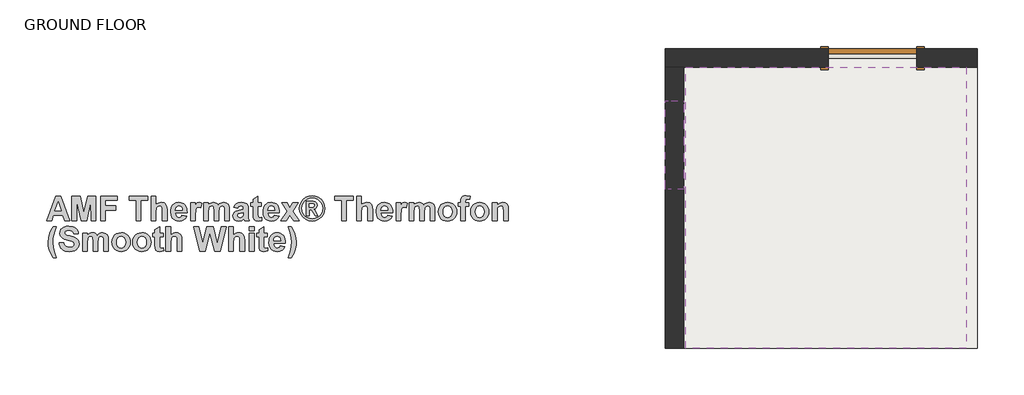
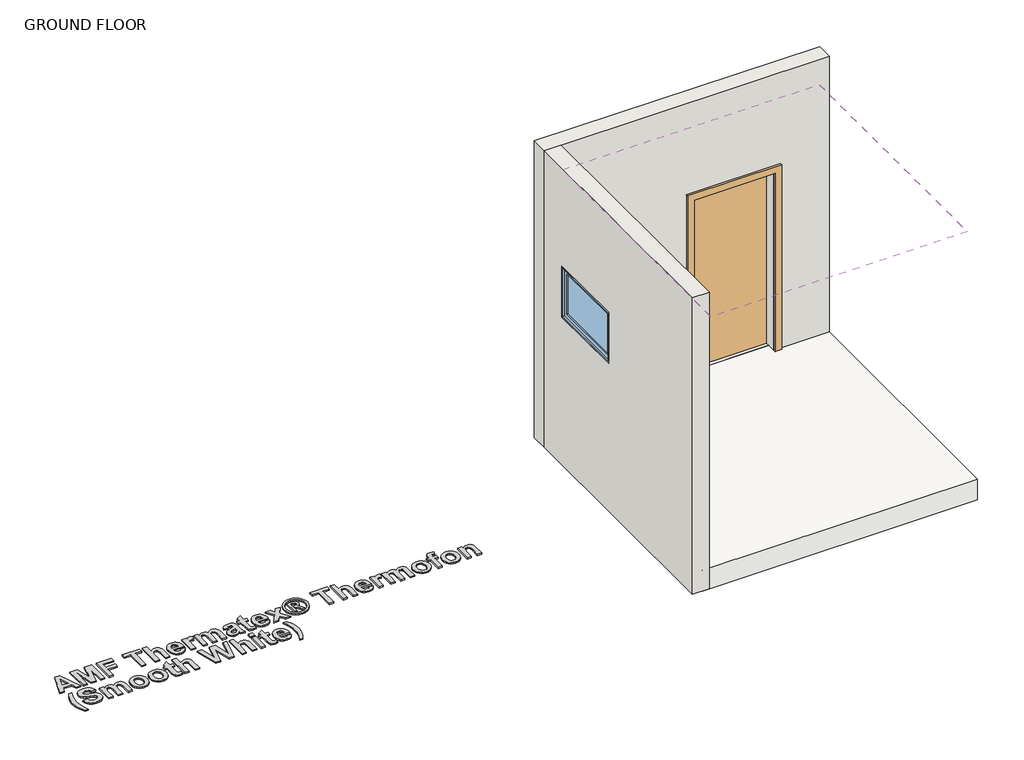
# One storey: 2 walls, 1 covering, 1 door, 1 proxy, 1 slab, 1 window.
"""IFC4 building model written with IfcOpenShell, lengths in millimetres."""

from ifc_helpers import new_model, si_unit, frame, origin, origin_with_axes, place, context, project, spatial, polyline, outline, extrude, faceted_brep, transform, mapped, element, save
from components import m_single_flush_0915_x_2134mm_f5238887, m_fixed_0915_x_0610mm_e83bb20a

model = new_model("IFC4")

# Units and contexts
model_context = context("Model", 3, world=origin())
ifc_project = project(units=[si_unit("LENGTHUNIT", "METRE", prefix="MILLI")], contexts=[model_context])

# Site, building, storey
site = spatial("IfcSite", under=ifc_project)
building = spatial("IfcBuilding", under=site)
storey = spatial("IfcBuildingStorey", under=building, Name="GROUND FLOOR", Elevation=0.0)

# Proxy
placement = place(None, origin())
element("IfcBuildingElementProxy", 1, Name="600mm Arial", ObjectType="600mm Arial", at=placement, inside=storey, context=model_context, shape_type="SweptSolid", body=[
    extrude(outline(polyline([(-7411.3659202, -20337.2370141), (-7462.4168463, -20337.2370141), (-7482.4070478, -20280.5559363), (-7578.752228, -20280.5559363), (-7598.489389, -20337.2370141), (-7650.2361766, -20337.2370141), (-7557.1172631, -20082.1721641), (-7505.3704756, -20082.1721641), (-7411.3659202, -20337.2370141)]), holes=[polyline([(-7497.9690402, -20236.0208038), (-7530.8010484, -20142.9018903), (-7563.1902357, -20236.0208038), (-7497.9690402, -20236.0208038)])]), origin_with_axes(), (0.0, 0.0, 1.0), 15.0),
    extrude(outline(polyline([(-7387.0740298, -20337.2370141), (-7387.0740298, -20082.1721641), (-7303.8236968, -20082.1721641), (-7263.5902532, -20256.1375256), (-7223.3568096, -20082.1721641), (-7140.1064766, -20082.1721641), (-7140.1064766, -20337.2370141), (-7188.6902575, -20337.2370141), (-7190.7145817, -20136.4493569), (-7235.123194, -20337.2370141), (-7291.9940522, -20337.2370141), (-7336.4659246, -20136.4493569), (-7338.4902488, -20337.2370141), (-7387.0740298, -20337.2370141)])), origin_with_axes(), (0.0, 0.0, 1.0), 15.0),
    extrude(outline(polyline([(-7091.5226956, -20337.2370141), (-7091.5226956, -20082.1721641), (-6917.4308139, -20082.1721641), (-6917.4308139, -20126.7072966), (-7042.9389147, -20126.7072966), (-7042.9389147, -20183.3883744), (-6933.6254076, -20183.3883744), (-6933.6254076, -20227.9235069), (-7042.9389147, -20227.9235069), (-7042.9389147, -20337.2370141), (-7091.5226956, -20337.2370141)])), origin_with_axes(), (0.0, 0.0, 1.0), 15.0),
    extrude(outline(polyline([(-6723.0956901, -20337.2370141), (-6723.0956901, -20126.7072966), (-6795.9713615, -20126.7072966), (-6795.9713615, -20082.1721641), (-6601.6362377, -20082.1721641), (-6601.6362377, -20126.7072966), (-6674.5119092, -20126.7072966), (-6674.5119092, -20337.2370141), (-6723.0956901, -20337.2370141)])), origin_with_axes(), (0.0, 0.0, 1.0), 15.0),
    extrude(outline(polyline([(-6520.6632695, -20082.1721641), (-6520.6632695, -20174.531956), (-6508.4580179, -20162.4650859), (-6495.1219914, -20153.845893), (-6480.6551901, -20148.6743773), (-6465.0576139, -20146.9505387), (-6449.2425811, -20148.5241345), (-6435.0723116, -20153.2449218), (-6423.3691873, -20160.4249467), (-6414.9555898, -20169.3762553), (-6405.7196106, -20191.1061104), (-6403.2524655, -20228.0500272), (-6403.2524655, -20337.2370141), (-6451.8362465, -20337.2370141), (-6451.8362465, -20238.1716482), (-6454.5564321, -20200.6900203), (-6464.1719721, -20188.0696241), (-6481.3787278, -20183.3883744), (-6492.6390312, -20184.8908025), (-6502.634132, -20189.3980869), (-6510.7393364, -20196.9260425), (-6516.3299505, -20207.4904845), (-6520.6632695, -20243.2957189), (-6520.6632695, -20337.2370141), (-6569.2470504, -20337.2370141), (-6569.2470504, -20082.1721641), (-6520.6632695, -20082.1721641)])), origin_with_axes(), (0.0, 0.0, 1.0), 15.0),
    extrude(outline(polyline([(-6249.4038258, -20280.5559363), (-6200.8200449, -20288.6532331), (-6212.6496895, -20311.3240827), (-6229.7931851, -20327.8428846), (-6252.0765664, -20337.924968), (-6279.325868, -20341.2856625), (-6301.3285325, -20339.3048296), (-6320.2709881, -20333.362331), (-6336.1532348, -20323.4581667), (-6348.9752727, -20309.5923366), (-6362.3547905, -20280.888052), (-6366.8146298, -20245.5098235), (-6365.3359242, -20223.6692631), (-6360.8998075, -20204.3274779), (-6353.5062796, -20187.4844679), (-6343.1553406, -20173.1402331), (-6330.5428519, -20161.6822418), (-6316.364675, -20153.4979623), (-6300.6208098, -20148.5873946), (-6283.3112563, -20146.9505387), (-6264.0762226, -20148.6308859), (-6246.9841258, -20153.6719277), (-6232.034966, -20162.0736639), (-6219.2287431, -20173.8360945), (-6209.0240932, -20189.069925), (-6201.8796521, -20207.8858603), (-6197.7954199, -20230.2839006), (-6196.7713965, -20256.2640458), (-6318.2308488, -20256.2640458), (-6315.1152874, -20276.7286983), (-6306.7807651, -20292.0692802), (-6294.4924845, -20301.6531901), (-6279.5156484, -20304.8478268), (-6269.3149522, -20303.4086588), (-6260.8539096, -20299.0911548), (-6254.1957808, -20291.5790142), (-6249.4038258, -20280.5559363)]), holes=[polyline([(-6245.3551774, -20227.9235069), (-6248.3125886, -20208.7161495), (-6256.1726599, -20194.743568), (-6267.5911136, -20186.2271728), (-6281.223672, -20183.3883744), (-6295.6153519, -20186.3774156), (-6307.2868461, -20195.3445392), (-6314.941322, -20209.4989937), (-6317.4084671, -20227.9235069), (-6245.3551774, -20227.9235069)])]), origin_with_axes(), (0.0, 0.0, 1.0), 15.0),
    extrude(outline(polyline([(-6111.7497798, -20337.2370141), (-6160.3335608, -20337.2370141), (-6160.3335608, -20150.9991871), (-6111.7497798, -20150.9991871), (-6111.7497798, -20176.935841), (-6092.3289195, -20152.7388407), (-6072.7182787, -20146.9505387), (-6057.5516622, -20149.512574), (-6042.9227568, -20157.19868), (-6057.0930262, -20203.4418361), (-6068.7961506, -20197.5111987), (-6079.613633, -20195.5343196), (-6096.7254986, -20201.0695811), (-6102.9724366, -20208.8268548), (-6107.7327615, -20221.0281526), (-6111.7497798, -20281.5048383), (-6111.7497798, -20337.2370141)])), origin_with_axes(), (0.0, 0.0, 1.0), 15.0),
    extrude(outline(polyline([(-6026.7281631, -20150.9991871), (-5978.1443822, -20150.9991871), (-5978.1443822, -20175.9236789), (-5966.1842636, -20163.24793), (-5953.1408152, -20154.1938237), (-5939.0140371, -20148.7613599), (-5923.8039293, -20146.9505387), (-5908.1549543, -20148.7297299), (-5894.7358989, -20154.0673035), (-5883.5309481, -20163.0107046), (-5874.5242869, -20175.6073782), (-5862.0857635, -20163.0107046), (-5848.6825232, -20154.0673035), (-5834.3303809, -20148.7297299), (-5819.0451516, -20146.9505387), (-5800.5890083, -20149.0302155), (-5785.2009813, -20155.269246), (-5773.0866661, -20165.5411098), (-5764.4516582, -20179.7192868), (-5760.7509405, -20195.2970941), (-5759.5173679, -20218.2447068), (-5759.5173679, -20337.2370141), (-5808.1011489, -20337.2370141), (-5808.1011489, -20230.0110913), (-5809.3347214, -20207.0634786), (-5813.0354391, -20194.0160765), (-5821.4174065, -20186.0452999), (-5833.4052014, -20183.3883744), (-5843.1077241, -20184.9777852), (-5852.2250906, -20189.7460176), (-5859.8163063, -20197.5823664), (-5864.940377, -20208.3761263), (-5868.8308751, -20247.1545869), (-5868.8308751, -20337.2370141), (-5917.414656, -20337.2370141), (-5917.414656, -20234.4393005), (-5919.9450613, -20199.1085171), (-5927.7576875, -20187.2788725), (-5942.1493674, -20183.3883744), (-5952.539844, -20184.9303401), (-5961.8232683, -20189.5562372), (-5969.3195939, -20197.1000079), (-5974.3487743, -20207.3955943), (-5978.1443822, -20246.0791647), (-5978.1443822, -20337.2370141), (-6026.7281631, -20337.2370141), (-6026.7281631, -20150.9991871)])), origin_with_axes(), (0.0, 0.0, 1.0), 15.0),
    extrude(outline(polyline([(-5670.4471028, -20207.6802649), (-5714.9822354, -20199.582968), (-5705.3271578, -20176.2399795), (-5690.5321946, -20159.8556055), (-5668.9683973, -20150.1768054), (-5639.0068175, -20146.9505387), (-5611.9156662, -20148.9036952), (-5592.7636614, -20154.7631649), (-5579.8269645, -20163.6195833), (-5571.381737, -20174.5635861), (-5566.7321173, -20191.5726539), (-5565.1822441, -20218.6242676), (-5565.1822441, -20276.064467), (-5562.6202088, -20312.2492622), (-5553.0362989, -20337.2370141), (-5601.6200798, -20337.2370141), (-5606.1748093, -20321.801542), (-5607.8828328, -20315.6653093), (-5633.8827469, -20334.8647591), (-5648.1953516, -20339.6804367), (-5663.4252283, -20341.2856625), (-5688.1994772, -20337.3872569), (-5707.106349, -20325.6920401), (-5719.0862364, -20308.0503709), (-5723.0795322, -20286.3126083), (-5721.300341, -20271.4148473), (-5715.9627674, -20258.2251099), (-5707.4147422, -20247.3285523), (-5696.0041959, -20239.3103306), (-5658.9970191, -20227.8602468), (-5613.7660251, -20215.7775617), (-5613.7660251, -20210.6534911), (-5615.2763607, -20198.0330948), (-5619.8073676, -20189.6511274), (-5628.5135432, -20184.9540627), (-5642.5493849, -20183.3883744), (-5652.6235608, -20184.7326522), (-5660.1989616, -20188.7654856), (-5670.4471028, -20207.6802649)]), holes=[polyline([(-5613.7660251, -20252.2153974), (-5641.157662, -20258.9526014), (-5665.702593, -20266.6387074), (-5672.2974617, -20273.5498767), (-5674.4957513, -20282.1374396), (-5672.7323751, -20290.748725), (-5667.4422466, -20298.1106228), (-5659.4319325, -20303.1635258), (-5649.5079993, -20304.8478268), (-5637.5992796, -20302.8867627), (-5626.2915311, -20297.0035705), (-5615.5373087, -20282.4537402), (-5613.7660251, -20261.0085557), (-5613.7660251, -20252.2153974)])]), origin_with_axes(), (0.0, 0.0, 1.0), 15.0),
    extrude(outline(polyline([(-5427.5281981, -20150.9991871), (-5427.5281981, -20187.4370228), (-5463.9660338, -20187.4370228), (-5463.9660338, -20267.3345688), (-5462.8589815, -20295.5802175), (-5457.8298011, -20302.2225313), (-5448.2775212, -20304.8478268), (-5425.5038739, -20300.166577), (-5423.4795497, -20334.7066088), (-5442.2203636, -20339.6408991), (-5463.2701724, -20341.2856625), (-5487.8151034, -20336.730933), (-5503.8515467, -20324.9645486), (-5510.9683115, -20305.417168), (-5512.5498148, -20270.0547545), (-5512.5498148, -20187.4370228), (-5536.8417052, -20187.4370228), (-5536.8417052, -20150.9991871), (-5512.5498148, -20150.9991871), (-5512.5498148, -20114.5613514), (-5463.9660338, -20086.2208125), (-5463.9660338, -20150.9991871), (-5427.5281981, -20150.9991871)])), origin_with_axes(), (0.0, 0.0, 1.0), 15.0),
    extrude(outline(polyline([(-5293.9228005, -20280.5559363), (-5245.3390195, -20288.6532331), (-5257.1686641, -20311.3240827), (-5274.3121597, -20327.8428846), (-5296.595541, -20337.924968), (-5323.8448427, -20341.2856625), (-5345.8475071, -20339.3048296), (-5364.7899627, -20333.362331), (-5380.6722095, -20323.4581667), (-5393.4942474, -20309.5923366), (-5406.8737652, -20280.888052), (-5411.3336044, -20245.5098235), (-5409.8548989, -20223.6692631), (-5405.4187822, -20204.3274779), (-5398.0252543, -20187.4844679), (-5387.6743153, -20173.1402331), (-5375.0618266, -20161.6822418), (-5360.8836496, -20153.4979623), (-5345.1397844, -20148.5873946), (-5327.8302309, -20146.9505387), (-5308.5951972, -20148.6308859), (-5291.5031005, -20153.6719277), (-5276.5539406, -20162.0736639), (-5263.7477178, -20173.8360945), (-5253.5430678, -20189.069925), (-5246.3986267, -20207.8858603), (-5242.3143945, -20230.2839006), (-5241.2903711, -20256.2640458), (-5362.7498235, -20256.2640458), (-5359.634262, -20276.7286983), (-5351.2997397, -20292.0692802), (-5339.0114592, -20301.6531901), (-5324.034623, -20304.8478268), (-5313.8339269, -20303.4086588), (-5305.3728843, -20299.0911548), (-5298.7147554, -20291.5790142), (-5293.9228005, -20280.5559363)]), holes=[polyline([(-5289.8741521, -20227.9235069), (-5292.8315632, -20208.7161495), (-5300.6916345, -20194.743568), (-5312.1100883, -20186.2271728), (-5325.7426466, -20183.3883744), (-5340.1343265, -20186.3774156), (-5351.8058208, -20195.3445392), (-5359.4602967, -20209.4989937), (-5361.9274418, -20227.9235069), (-5289.8741521, -20227.9235069)])]), origin_with_axes(), (0.0, 0.0, 1.0), 15.0),
    extrude(outline(polyline([(-5227.1201017, -20337.2370141), (-5161.329565, -20241.3346548), (-5219.0228048, -20150.9991871), (-5161.2663048, -20150.9991871), (-5133.1788065, -20202.1766334), (-5102.6874231, -20150.9991871), (-5044.9309231, -20150.9991871), (-5104.3321865, -20239.1838103), (-5036.8336263, -20337.2370141), (-5094.5901263, -20337.2370141), (-5133.1788065, -20279.5437742), (-5169.3636017, -20337.2370141), (-5227.1201017, -20337.2370141)])), origin_with_axes(), (0.0, 0.0, 1.0), 15.0),
    extrude(outline(polyline([(-4903.2282287, -20078.1235157), (-4870.0720123, -20082.354037), (-4838.2917037, -20095.0456008), (-4810.5284136, -20115.6367736), (-4789.4232522, -20143.5661217), (-4776.0911795, -20175.8999563), (-4771.6471553, -20209.7045891), (-4776.0041968, -20243.2640888), (-4789.0753215, -20275.2420853), (-4809.9432573, -20302.9895604), (-4837.6907325, -20323.8574963), (-4869.6687289, -20336.9286209), (-4903.2282287, -20341.2856625), (-4936.7877284, -20336.9286209), (-4968.7657248, -20323.8574963), (-4996.5132, -20302.9895604), (-5017.3811359, -20275.2420853), (-5030.4522605, -20243.2640888), (-5034.8093021, -20209.7045891), (-5030.3652778, -20175.8999563), (-5017.0332051, -20143.5661217), (-4995.9280438, -20115.6367736), (-4968.1647536, -20095.0456008), (-4936.3844451, -20082.354037), (-4903.2282287, -20078.1235157)]), holes=[polyline([(-4903.2914888, -20102.4154061), (-4930.2956574, -20105.8551758), (-4956.1453286, -20116.1744847), (-4978.7371031, -20132.9305121), (-4995.9675814, -20155.6804368), (-5006.879954, -20182.0440966), (-5010.5174116, -20209.6413289), (-5006.9669367, -20237.0092433), (-4996.3155121, -20263.06451), (-4979.2985367, -20285.6800069), (-4956.6514097, -20302.7286124), (-4930.580328, -20313.4274821), (-4903.2914888, -20316.993772), (-4875.931482, -20313.4274821), (-4849.8999379, -20302.7286124), (-4827.3002559, -20285.6800069), (-4810.2358354, -20263.06451), (-4799.5132432, -20237.0092433), (-4795.9390457, -20209.6413289), (-4799.5765033, -20182.0440966), (-4810.488876, -20155.6804368), (-4827.7430768, -20132.9305121), (-4850.4060189, -20116.1744847), (-4876.3110427, -20105.8551758), (-4903.2914888, -20102.4154061)])]), origin_with_axes(), (0.0, 0.0, 1.0), 15.0),
    extrude(outline(polyline([(-4961.9336307, -20284.6045847), (-4961.9336307, -20134.8045934), (-4934.5419937, -20134.8045934), (-4891.4618442, -20135.1841542), (-4870.3013303, -20141.1622367), (-4857.680934, -20155.5539166), (-4852.6201235, -20176.9991011), (-4854.9686559, -20192.0233823), (-4862.014253, -20204.7070387), (-4873.314094, -20214.0379081), (-4888.4253579, -20219.0038284), (-4878.6516676, -20224.6339801), (-4869.194278, -20236.147324), (-4858.8828765, -20254.3662419), (-4844.5228267, -20284.6045847), (-4872.8633656, -20284.6045847), (-4886.8438546, -20260.6289949), (-4908.2574091, -20230.1376115), (-4916.4733187, -20225.4405468), (-4926.6344773, -20223.8748585), (-4933.5930918, -20223.8748585), (-4933.5930918, -20284.6045847), (-4961.9336307, -20284.6045847)]), holes=[polyline([(-4933.5930918, -20199.582968), (-4922.5225688, -20199.582968), (-4893.2331279, -20197.5902739), (-4884.2501892, -20190.5683993), (-4880.9606624, -20179.1499456), (-4884.1869291, -20168.1110527), (-4893.3596482, -20161.1840683), (-4922.5225688, -20159.0964839), (-4933.5930918, -20159.0964839), (-4933.5930918, -20199.582968)])]), origin_with_axes(), (0.0, 0.0, 1.0), 15.0),
    extrude(outline(polyline([(-4597.5552735, -20337.2370141), (-4597.5552735, -20126.7072966), (-4670.430945, -20126.7072966), (-4670.430945, -20082.1721641), (-4476.0958211, -20082.1721641), (-4476.0958211, -20126.7072966), (-4548.9714926, -20126.7072966), (-4548.9714926, -20337.2370141), (-4597.5552735, -20337.2370141)])), origin_with_axes(), (0.0, 0.0, 1.0), 15.0),
    extrude(outline(polyline([(-4395.1228529, -20082.1721641), (-4395.1228529, -20174.531956), (-4382.9176013, -20162.4650859), (-4369.5815748, -20153.845893), (-4355.1147735, -20148.6743773), (-4339.5171974, -20146.9505387), (-4323.7021645, -20148.5241345), (-4309.5318951, -20153.2449218), (-4297.8287707, -20160.4249467), (-4289.4151733, -20169.3762553), (-4280.1791941, -20191.1061104), (-4277.7120489, -20228.0500272), (-4277.7120489, -20337.2370141), (-4326.2958299, -20337.2370141), (-4326.2958299, -20238.1716482), (-4329.0160155, -20200.6900203), (-4338.6315555, -20188.0696241), (-4355.8383113, -20183.3883744), (-4367.0986147, -20184.8908025), (-4377.0937154, -20189.3980869), (-4385.1989198, -20196.9260425), (-4390.7895339, -20207.4904845), (-4395.1228529, -20243.2957189), (-4395.1228529, -20337.2370141), (-4443.7066338, -20337.2370141), (-4443.7066338, -20082.1721641), (-4395.1228529, -20082.1721641)])), origin_with_axes(), (0.0, 0.0, 1.0), 15.0),
    extrude(outline(polyline([(-4123.8634093, -20280.5559363), (-4075.2796283, -20288.6532331), (-4087.1092729, -20311.3240827), (-4104.2527685, -20327.8428846), (-4126.5361498, -20337.924968), (-4153.7854514, -20341.2856625), (-4175.7881159, -20339.3048296), (-4194.7305715, -20333.362331), (-4210.6128183, -20323.4581667), (-4223.4348562, -20309.5923366), (-4236.814374, -20280.888052), (-4241.2742132, -20245.5098235), (-4239.7955077, -20223.6692631), (-4235.3593909, -20204.3274779), (-4227.9658631, -20187.4844679), (-4217.6149241, -20173.1402331), (-4205.0024354, -20161.6822418), (-4190.8242584, -20153.4979623), (-4175.0803932, -20148.5873946), (-4157.7708397, -20146.9505387), (-4138.535806, -20148.6308859), (-4121.4437092, -20153.6719277), (-4106.4945494, -20162.0736639), (-4093.6883266, -20173.8360945), (-4083.4836766, -20189.069925), (-4076.3392355, -20207.8858603), (-4072.2550033, -20230.2839006), (-4071.2309799, -20256.2640458), (-4192.6904323, -20256.2640458), (-4189.5748708, -20276.7286983), (-4181.2403485, -20292.0692802), (-4168.9520679, -20301.6531901), (-4153.9752318, -20304.8478268), (-4143.7745356, -20303.4086588), (-4135.3134931, -20299.0911548), (-4128.6553642, -20291.5790142), (-4123.8634093, -20280.5559363)]), holes=[polyline([(-4119.8147608, -20227.9235069), (-4122.772172, -20208.7161495), (-4130.6322433, -20194.743568), (-4142.050697, -20186.2271728), (-4155.6832554, -20183.3883744), (-4170.0749353, -20186.3774156), (-4181.7464295, -20195.3445392), (-4189.4009054, -20209.4989937), (-4191.8680506, -20227.9235069), (-4119.8147608, -20227.9235069)])]), origin_with_axes(), (0.0, 0.0, 1.0), 15.0),
    extrude(outline(polyline([(-3986.2093632, -20337.2370141), (-4034.7931442, -20337.2370141), (-4034.7931442, -20150.9991871), (-3986.2093632, -20150.9991871), (-3986.2093632, -20176.935841), (-3966.7885029, -20152.7388407), (-3947.1778621, -20146.9505387), (-3932.0112456, -20149.512574), (-3917.3823402, -20157.19868), (-3931.5526097, -20203.4418361), (-3943.255734, -20197.5111987), (-3954.0732165, -20195.5343196), (-3971.185082, -20201.0695811), (-3977.43202, -20208.8268548), (-3982.1923449, -20221.0281526), (-3986.2093632, -20281.5048383), (-3986.2093632, -20337.2370141)])), origin_with_axes(), (0.0, 0.0, 1.0), 15.0),
    extrude(outline(polyline([(-3901.1877466, -20150.9991871), (-3852.6039656, -20150.9991871), (-3852.6039656, -20175.9236789), (-3840.643847, -20163.24793), (-3827.6003987, -20154.1938237), (-3813.4736206, -20148.7613599), (-3798.2635127, -20146.9505387), (-3782.6145377, -20148.7297299), (-3769.1954823, -20154.0673035), (-3757.9905315, -20163.0107046), (-3748.9838703, -20175.6073782), (-3736.545347, -20163.0107046), (-3723.1421066, -20154.0673035), (-3708.7899643, -20148.7297299), (-3693.504735, -20146.9505387), (-3675.0485917, -20149.0302155), (-3659.6605647, -20155.269246), (-3647.5462495, -20165.5411098), (-3638.9112416, -20179.7192868), (-3635.2105239, -20195.2970941), (-3633.9769513, -20218.2447068), (-3633.9769513, -20337.2370141), (-3682.5607323, -20337.2370141), (-3682.5607323, -20230.0110913), (-3683.7943049, -20207.0634786), (-3687.4950225, -20194.0160765), (-3695.87699, -20186.0452999), (-3707.8647849, -20183.3883744), (-3717.5673075, -20184.9777852), (-3726.684674, -20189.7460176), (-3734.2758898, -20197.5823664), (-3739.3999604, -20208.3761263), (-3743.2904585, -20247.1545869), (-3743.2904585, -20337.2370141), (-3791.8742394, -20337.2370141), (-3791.8742394, -20234.4393005), (-3794.4046447, -20199.1085171), (-3802.2172709, -20187.2788725), (-3816.6089508, -20183.3883744), (-3826.9994274, -20184.9303401), (-3836.2828517, -20189.5562372), (-3843.7791773, -20197.1000079), (-3848.8083577, -20207.3955943), (-3852.6039656, -20246.0791647), (-3852.6039656, -20337.2370141), (-3901.1877466, -20337.2370141), (-3901.1877466, -20150.9991871)])), origin_with_axes(), (0.0, 0.0, 1.0), 15.0),
    extrude(outline(polyline([(-3597.5391156, -20241.4611751), (-3594.5421669, -20217.3669725), (-3585.5513207, -20194.0477065), (-3571.0726581, -20173.828187), (-3551.6122602, -20159.0332238), (-3528.3799769, -20149.97121), (-3502.5856583, -20146.9505387), (-3482.5934799, -20148.662516), (-3464.4951517, -20153.7984479), (-3448.2906736, -20162.3583345), (-3433.9800458, -20174.3421756), (-3422.2868059, -20188.9434047), (-3413.9344916, -20205.355455), (-3408.9231031, -20223.5783267), (-3407.2526402, -20243.6120195), (-3408.940895, -20263.8058396), (-3414.0056593, -20282.1927922), (-3422.4469331, -20298.7728773), (-3434.2647164, -20313.5460948), (-3448.6405812, -20325.6821557), (-3464.7560997, -20334.3507706), (-3482.6112718, -20339.5519395), (-3502.2060975, -20341.2856625), (-3526.9803465, -20338.399419), (-3550.568468, -20329.7406885), (-3570.8117101, -20315.4992514), (-3585.5513207, -20295.8648881), (-3594.5421669, -20271.0985466), (-3597.5391156, -20241.4611751)]), holes=[polyline([(-3548.9553347, -20244.1181006), (-3545.5946402, -20270.0942921), (-3535.5125567, -20289.1909442), (-3520.496183, -20300.9336061), (-3502.3326178, -20304.8478268), (-3484.1848676, -20300.9336061), (-3469.215939, -20289.1909442), (-3459.1813006, -20269.9994019), (-3455.8364212, -20243.7385398), (-3459.1813006, -20218.0470189), (-3469.215939, -20199.0452569), (-3484.1848676, -20187.302595), (-3502.3326178, -20183.3883744), (-3520.496183, -20187.302595), (-3535.5125567, -20199.0452569), (-3545.5946402, -20218.1419091), (-3548.9553347, -20244.1181006)])]), origin_with_axes(), (0.0, 0.0, 1.0), 15.0),
    extrude(outline(polyline([(-3391.0580466, -20150.9991871), (-3366.7661561, -20150.9991871), (-3366.7661561, -20137.3982588), (-3365.5325836, -20117.5187625), (-3361.8318659, -20103.4275683), (-3354.8258063, -20093.2664096), (-3343.6762081, -20085.1770203), (-3328.699372, -20079.8868918), (-3310.2115986, -20078.1235157), (-3269.5985942, -20084.1964883), (-3275.6715668, -20117.281537), (-3298.2554338, -20114.5613514), (-3307.3886152, -20115.7791089), (-3313.5327555, -20119.4323815), (-3317.0199703, -20126.5491463), (-3318.1823752, -20138.1573804), (-3318.1823752, -20150.9991871), (-3281.7445395, -20150.9991871), (-3281.7445395, -20187.4370228), (-3318.1823752, -20187.4370228), (-3318.1823752, -20337.2370141), (-3366.7661561, -20337.2370141), (-3366.7661561, -20187.4370228), (-3391.0580466, -20187.4370228), (-3391.0580466, -20150.9991871)])), origin_with_axes(), (0.0, 0.0, 1.0), 15.0),
    extrude(outline(polyline([(-3265.5499458, -20241.4611751), (-3262.5529971, -20217.3669725), (-3253.5621509, -20194.0477065), (-3239.0834883, -20173.828187), (-3219.6230904, -20159.0332238), (-3196.3908071, -20149.97121), (-3170.5964885, -20146.9505387), (-3150.6043101, -20148.662516), (-3132.5059819, -20153.7984479), (-3116.3015038, -20162.3583345), (-3101.990876, -20174.3421756), (-3090.297636, -20188.9434047), (-3081.9453218, -20205.355455), (-3076.9339333, -20223.5783267), (-3075.2634704, -20243.6120195), (-3076.9517252, -20263.8058396), (-3082.0164894, -20282.1927922), (-3090.4577632, -20298.7728773), (-3102.2755465, -20313.5460948), (-3116.6514114, -20325.6821557), (-3132.7669299, -20334.3507706), (-3150.622102, -20339.5519395), (-3170.2169277, -20341.2856625), (-3194.9911767, -20338.399419), (-3218.5792982, -20329.7406885), (-3238.8225403, -20315.4992514), (-3253.5621509, -20295.8648881), (-3262.5529971, -20271.0985466), (-3265.5499458, -20241.4611751)]), holes=[polyline([(-3216.9661649, -20244.1181006), (-3213.6054704, -20270.0942921), (-3203.5233869, -20289.1909442), (-3188.5070132, -20300.9336061), (-3170.343448, -20304.8478268), (-3152.1956978, -20300.9336061), (-3137.2267692, -20289.1909442), (-3127.1921308, -20269.9994019), (-3123.8472514, -20243.7385398), (-3127.1921308, -20218.0470189), (-3137.2267692, -20199.0452569), (-3152.1956978, -20187.302595), (-3170.343448, -20183.3883744), (-3188.5070132, -20187.302595), (-3203.5233869, -20199.0452569), (-3213.6054704, -20218.1419091), (-3216.9661649, -20244.1181006)])]), origin_with_axes(), (0.0, 0.0, 1.0), 15.0),
    extrude(outline(polyline([(-2872.8310498, -20337.2370141), (-2921.4148307, -20337.2370141), (-2921.4148307, -20241.5244352), (-2924.451317, -20202.1766334), (-2934.3831577, -20188.3226647), (-2950.894052, -20183.3883744), (-2962.6525289, -20185.1517506), (-2973.1299882, -20190.4418791), (-2981.4170654, -20198.6498811), (-2986.6043962, -20209.166878), (-2990.2418538, -20252.2786575), (-2990.2418538, -20337.2370141), (-3038.8256347, -20337.2370141), (-3038.8256347, -20150.9991871), (-2990.2418538, -20150.9991871), (-2990.2418538, -20177.8214828), (-2977.9496195, -20164.3154448), (-2964.1628646, -20154.6682747), (-2948.8815891, -20148.8799727), (-2932.105793, -20146.9505387), (-2903.8917743, -20152.8337309), (-2884.5341741, -20167.8263821), (-2875.3930851, -20188.480815), (-2872.8310498, -20221.5974938), (-2872.8310498, -20337.2370141)])), origin_with_axes(), (0.0, 0.0, 1.0), 15.0),
    extrude(outline(polyline([(-7549.0199663, -20720.8424117), (-7581.4091536, -20720.8424117), (-7604.0800032, -20681.1704018), (-7620.598805, -20639.9643336), (-7630.6808884, -20598.6633753), (-7634.0415829, -20558.7066948), (-7629.9296744, -20511.3090413), (-7617.5939487, -20466.5366833), (-7601.3993551, -20430.2569979), (-7581.4091536, -20396.9505387), (-7549.0199663, -20396.9505387), (-7566.5825603, -20444.1900418), (-7577.6451757, -20483.8066992), (-7583.5046454, -20520.6873558), (-7585.457802, -20559.7188569), (-7580.7765522, -20616.3683046), (-7567.9347456, -20671.436249), (-7549.0199663, -20720.8424117)])), origin_with_axes(), (0.0, 0.0, 1.0), 15.0),
    extrude(outline(polyline([(-7520.6794274, -20566.993772), (-7472.0956464, -20562.9451236), (-7465.0105117, -20584.6749788), (-7453.117607, -20599.7625201), (-7436.3378571, -20608.5873084), (-7414.5921869, -20611.5289045), (-7392.024135, -20608.9273316), (-7375.8137264, -20601.1226129), (-7366.0400361, -20589.838587), (-7362.7821393, -20576.7990924), (-7368.1908805, -20561.5850308), (-7387.1372899, -20550.6726581), (-7429.2685374, -20539.8551756), (-7465.2319222, -20528.6739474), (-7488.6065407, -20514.993944), (-7506.5882331, -20491.6984006), (-7512.5821305, -20463.8164976), (-7509.8303148, -20445.0282386), (-7501.5748677, -20427.5051822), (-7488.1320897, -20412.6232363), (-7469.8182817, -20401.7583087), (-7446.9339291, -20395.1159949), (-7419.7795177, -20392.9018903), (-7377.814328, -20398.4213367), (-7361.2737805, -20405.3206448), (-7347.6945979, -20414.9796761), (-7337.0332889, -20426.9397947), (-7329.2463621, -20440.7423647), (-7324.3338175, -20456.3873859), (-7322.2956552, -20473.8748585), (-7370.8794361, -20473.8748585), (-7376.2486398, -20457.1820913), (-7385.5241565, -20445.9455105), (-7399.5599982, -20439.5641447), (-7419.2101765, -20437.4370228), (-7439.8962395, -20439.6985725), (-7455.521492, -20446.4832216), (-7461.8791352, -20453.2836857), (-7463.9983496, -20462.0452139), (-7462.0689156, -20470.3164761), (-7456.2806136, -20477.2909056), (-7439.4771411, -20485.4593701), (-7408.6773646, -20493.8966901), (-7375.8058188, -20502.6740334), (-7352.7870385, -20511.8625675), (-7336.655705, -20522.9884431), (-7324.4464996, -20537.5778109), (-7316.7603937, -20555.8125438), (-7314.1983583, -20577.8745146), (-7317.2269371, -20598.9401384), (-7326.3126735, -20618.6140393), (-7340.9415789, -20635.1565636), (-7360.5996647, -20646.8280579), (-7385.500434, -20653.7550423), (-7415.8573896, -20656.0640371), (-7438.5598692, -20654.642661), (-7458.4630881, -20650.3785328), (-7475.5670461, -20643.2716524), (-7489.8717434, -20633.3220198), (-7501.4760237, -20620.6482479), (-7510.4787312, -20605.3689492), (-7516.8798657, -20587.484124), (-7520.6794274, -20566.993772)])), origin_with_axes(), (0.0, 0.0, 1.0), 15.0),
    extrude(outline(polyline([(-7277.7605226, -20465.7775617), (-7229.1767417, -20465.7775617), (-7229.1767417, -20490.7020535), (-7217.2166231, -20478.0263046), (-7204.1731747, -20468.9721983), (-7190.0463966, -20463.5397345), (-7174.8362888, -20461.7289133), (-7159.1873137, -20463.5081045), (-7145.7682584, -20468.8456781), (-7134.5633076, -20477.7890792), (-7125.5566464, -20490.3857528), (-7113.118123, -20477.7890792), (-7099.7148827, -20468.8456781), (-7085.3627403, -20463.5081045), (-7070.0775111, -20461.7289133), (-7051.6213677, -20463.8085901), (-7036.2333408, -20470.0476206), (-7024.1190256, -20480.3194844), (-7015.4840176, -20494.4976614), (-7011.7833, -20510.0754687), (-7010.5497274, -20533.0230814), (-7010.5497274, -20652.0153887), (-7059.1335083, -20652.0153887), (-7059.1335083, -20544.7894659), (-7060.3670809, -20521.8418532), (-7064.0677986, -20508.7944511), (-7072.449766, -20500.8236745), (-7084.4375609, -20498.166749), (-7094.1400836, -20499.7561598), (-7103.25745, -20504.5243922), (-7110.8486658, -20512.360741), (-7115.9727364, -20523.1545009), (-7119.8632345, -20561.9329615), (-7119.8632345, -20652.0153887), (-7168.4470155, -20652.0153887), (-7168.4470155, -20549.2176751), (-7170.9774207, -20513.8868917), (-7178.790047, -20502.0572471), (-7193.1817269, -20498.166749), (-7203.5722035, -20499.7087147), (-7212.8556278, -20504.3346118), (-7220.3519533, -20511.8783825), (-7225.3811338, -20522.1739689), (-7229.1767417, -20560.8575393), (-7229.1767417, -20652.0153887), (-7277.7605226, -20652.0153887), (-7277.7605226, -20465.7775617)])), origin_with_axes(), (0.0, 0.0, 1.0), 15.0),
    extrude(outline(polyline([(-6974.1118917, -20556.2395497), (-6971.114943, -20532.1453471), (-6962.1240968, -20508.8260811), (-6947.6454342, -20488.6065616), (-6928.1850362, -20473.8115984), (-6904.952753, -20464.7495846), (-6879.1584344, -20461.7289133), (-6859.166256, -20463.4408906), (-6841.0679277, -20468.5768225), (-6824.8634497, -20477.1367091), (-6810.5528218, -20489.1205502), (-6798.8595819, -20503.7217793), (-6790.5072677, -20520.1338296), (-6785.4958791, -20538.3567013), (-6783.8254163, -20558.3903941), (-6785.513671, -20578.5842142), (-6790.5784353, -20596.9711668), (-6799.0197091, -20613.5512519), (-6810.8374924, -20628.3244694), (-6825.2133573, -20640.4605303), (-6841.3288758, -20649.1291452), (-6859.1840479, -20654.3303141), (-6878.7788736, -20656.0640371), (-6903.5531226, -20653.1777936), (-6927.1412441, -20644.5190631), (-6947.3844861, -20630.277626), (-6962.1240968, -20610.6432627), (-6971.114943, -20585.8769212), (-6974.1118917, -20556.2395497)]), holes=[polyline([(-6925.5281107, -20558.8964752), (-6922.1674162, -20584.8726667), (-6912.0853328, -20603.9693188), (-6897.0689591, -20615.7119807), (-6878.9053939, -20619.6262014), (-6860.7576436, -20615.7119807), (-6845.788715, -20603.9693188), (-6835.7540767, -20584.7777765), (-6832.4091972, -20558.5169144), (-6835.7540767, -20532.8253935), (-6845.788715, -20513.8236315), (-6860.7576436, -20502.0809696), (-6878.9053939, -20498.166749), (-6897.0689591, -20502.0809696), (-6912.0853328, -20513.8236315), (-6922.1674162, -20532.9202837), (-6925.5281107, -20558.8964752)])]), origin_with_axes(), (0.0, 0.0, 1.0), 15.0),
    extrude(outline(polyline([(-6759.5335258, -20556.2395497), (-6756.5365771, -20532.1453471), (-6747.5457309, -20508.8260811), (-6733.0670683, -20488.6065616), (-6713.6066704, -20473.8115984), (-6690.3743871, -20464.7495846), (-6664.5800685, -20461.7289133), (-6644.5878901, -20463.4408906), (-6626.4895619, -20468.5768225), (-6610.2850838, -20477.1367091), (-6595.974456, -20489.1205502), (-6584.281216, -20503.7217793), (-6575.9289018, -20520.1338296), (-6570.9175133, -20538.3567013), (-6569.2470504, -20558.3903941), (-6570.9353052, -20578.5842142), (-6576.0000695, -20596.9711668), (-6584.4413432, -20613.5512519), (-6596.2591266, -20628.3244694), (-6610.6349914, -20640.4605303), (-6626.7505099, -20649.1291452), (-6644.605682, -20654.3303141), (-6664.2005077, -20656.0640371), (-6688.9747567, -20653.1777936), (-6712.5628782, -20644.5190631), (-6732.8061203, -20630.277626), (-6747.5457309, -20610.6432627), (-6756.5365771, -20585.8769212), (-6759.5335258, -20556.2395497)]), holes=[polyline([(-6710.9497449, -20558.8964752), (-6707.5890504, -20584.8726667), (-6697.5069669, -20603.9693188), (-6682.4905932, -20615.7119807), (-6664.327028, -20619.6262014), (-6646.1792778, -20615.7119807), (-6631.2103492, -20603.9693188), (-6621.1757108, -20584.7777765), (-6617.8308314, -20558.5169144), (-6621.1757108, -20532.8253935), (-6631.2103492, -20513.8236315), (-6646.1792778, -20502.0809696), (-6664.327028, -20498.166749), (-6682.4905932, -20502.0809696), (-6697.5069669, -20513.8236315), (-6707.5890504, -20532.9202837), (-6710.9497449, -20558.8964752)])]), origin_with_axes(), (0.0, 0.0, 1.0), 15.0),
    extrude(outline(polyline([(-6443.7389496, -20465.7775617), (-6443.7389496, -20502.2153974), (-6480.1767854, -20502.2153974), (-6480.1767854, -20582.1129434), (-6479.0697331, -20610.3585921), (-6474.0405526, -20617.0009059), (-6464.4882728, -20619.6262014), (-6441.7146254, -20614.9449516), (-6439.6903012, -20649.4849834), (-6458.4311152, -20654.4192737), (-6479.4809239, -20656.0640371), (-6504.0258549, -20651.5093076), (-6520.0622982, -20639.7429232), (-6527.179063, -20620.1955426), (-6528.7605663, -20584.8331291), (-6528.7605663, -20502.2153974), (-6553.0524568, -20502.2153974), (-6553.0524568, -20465.7775617), (-6528.7605663, -20465.7775617), (-6528.7605663, -20429.339726), (-6480.1767854, -20400.9991871), (-6480.1767854, -20465.7775617), (-6443.7389496, -20465.7775617)])), origin_with_axes(), (0.0, 0.0, 1.0), 15.0),
    extrude(outline(polyline([(-6366.8146298, -20396.9505387), (-6366.8146298, -20489.3103306), (-6354.6093782, -20477.2434605), (-6341.2733517, -20468.6242676), (-6326.8065504, -20463.4527519), (-6311.2089743, -20461.7289133), (-6295.3939414, -20463.3025091), (-6281.223672, -20468.0232964), (-6269.5205476, -20475.2033213), (-6261.1069502, -20484.1546299), (-6251.870971, -20505.884485), (-6249.4038258, -20542.8284018), (-6249.4038258, -20652.0153887), (-6297.9876068, -20652.0153887), (-6297.9876068, -20552.9500228), (-6300.7077924, -20515.4683949), (-6310.3233324, -20502.8479987), (-6327.5300882, -20498.166749), (-6338.7903916, -20499.6691771), (-6348.7854923, -20504.1764615), (-6356.8906967, -20511.7044171), (-6362.4813108, -20522.2688591), (-6366.8146298, -20558.0740935), (-6366.8146298, -20652.0153887), (-6415.3984107, -20652.0153887), (-6415.3984107, -20396.9505387), (-6366.8146298, -20396.9505387)])), origin_with_axes(), (0.0, 0.0, 1.0), 15.0),
    extrude(outline(polyline([(-6063.73534, -20652.0153887), (-6127.9443735, -20396.9505387), (-6078.0953899, -20396.9505387), (-6036.8497842, -20572.1811028), (-5992.504432, -20396.9505387), (-5927.1567163, -20396.9505387), (-5883.0011445, -20575.0910688), (-5841.7555388, -20396.9505387), (-5791.9065552, -20396.9505387), (-5855.1666867, -20652.0153887), (-5912.6701462, -20652.0153887), (-5959.9254643, -20461.3493525), (-6008.1296845, -20652.0153887), (-6063.73534, -20652.0153887)])), origin_with_axes(), (0.0, 0.0, 1.0), 15.0),
    extrude(outline(polyline([(-5719.0308838, -20396.9505387), (-5719.0308838, -20489.3103306), (-5706.8256322, -20477.2434605), (-5693.4896057, -20468.6242676), (-5679.0228044, -20463.4527519), (-5663.4252283, -20461.7289133), (-5647.6101954, -20463.3025091), (-5633.4399259, -20468.0232964), (-5621.7368016, -20475.2033213), (-5613.3232041, -20484.1546299), (-5604.087225, -20505.884485), (-5601.6200798, -20542.8284018), (-5601.6200798, -20652.0153887), (-5650.2038608, -20652.0153887), (-5650.2038608, -20552.9500228), (-5652.9240464, -20515.4683949), (-5662.5395864, -20502.8479987), (-5679.7463422, -20498.166749), (-5691.0066456, -20499.6691771), (-5701.0017463, -20504.1764615), (-5709.1069507, -20511.7044171), (-5714.6975648, -20522.2688591), (-5719.0308838, -20558.0740935), (-5719.0308838, -20652.0153887), (-5767.6146647, -20652.0153887), (-5767.6146647, -20396.9505387), (-5719.0308838, -20396.9505387)])), origin_with_axes(), (0.0, 0.0, 1.0), 15.0),
    extrude(outline(polyline([(-5553.0362989, -20441.4856712), (-5553.0362989, -20396.9505387), (-5504.4525179, -20396.9505387), (-5504.4525179, -20441.4856712), (-5553.0362989, -20441.4856712)])), origin_with_axes(), (0.0, 0.0, 1.0), 15.0),
    extrude(outline(polyline([(-5553.0362989, -20652.0153887), (-5553.0362989, -20465.7775617), (-5504.4525179, -20465.7775617), (-5504.4525179, -20652.0153887), (-5553.0362989, -20652.0153887)])), origin_with_axes(), (0.0, 0.0, 1.0), 15.0),
    extrude(outline(polyline([(-5366.7984719, -20465.7775617), (-5366.7984719, -20502.2153974), (-5403.2363076, -20502.2153974), (-5403.2363076, -20582.1129434), (-5402.1292553, -20610.3585921), (-5397.1000749, -20617.0009059), (-5387.547795, -20619.6262014), (-5364.7741477, -20614.9449516), (-5362.7498235, -20649.4849834), (-5381.4906374, -20654.4192737), (-5402.5404462, -20656.0640371), (-5427.0853772, -20651.5093076), (-5443.1218205, -20639.7429232), (-5450.2385853, -20620.1955426), (-5451.8200886, -20584.8331291), (-5451.8200886, -20502.2153974), (-5476.111979, -20502.2153974), (-5476.111979, -20465.7775617), (-5451.8200886, -20465.7775617), (-5451.8200886, -20429.339726), (-5403.2363076, -20400.9991871), (-5403.2363076, -20465.7775617), (-5366.7984719, -20465.7775617)])), origin_with_axes(), (0.0, 0.0, 1.0), 15.0),
    extrude(outline(polyline([(-5233.1930743, -20595.3343109), (-5184.6092933, -20603.4316077), (-5196.4389379, -20626.1024573), (-5213.5824335, -20642.6212592), (-5235.8658148, -20652.7033426), (-5263.1151165, -20656.0640371), (-5285.1177809, -20654.0832042), (-5304.0602365, -20648.1407056), (-5319.9424833, -20638.2365413), (-5332.7645212, -20624.3707112), (-5346.144039, -20595.6664266), (-5350.6038783, -20560.2881981), (-5349.1251727, -20538.4476377), (-5344.689056, -20519.1058525), (-5337.2955281, -20502.2628425), (-5326.9445891, -20487.9186077), (-5314.3321004, -20476.4606164), (-5300.1539234, -20468.2763369), (-5284.4100582, -20463.3657692), (-5267.1005047, -20461.7289133), (-5247.865471, -20463.4092605), (-5230.7733743, -20468.4503023), (-5215.8242145, -20476.8520385), (-5203.0179916, -20488.6144692), (-5192.8133416, -20503.8482996), (-5185.6689005, -20522.6642349), (-5181.5846683, -20545.0622752), (-5180.5606449, -20571.0424204), (-5302.0200973, -20571.0424204), (-5298.9045358, -20591.5070729), (-5290.5700135, -20606.8476548), (-5278.281733, -20616.4315647), (-5263.3048969, -20619.6262014), (-5253.1042007, -20618.1870334), (-5244.6431581, -20613.8695294), (-5237.9850292, -20606.3573888), (-5233.1930743, -20595.3343109)]), holes=[polyline([(-5229.1444259, -20542.7018815), (-5232.101837, -20523.4945241), (-5239.9619084, -20509.5219426), (-5251.3803621, -20501.0055474), (-5265.0129204, -20498.166749), (-5279.4046003, -20501.1557902), (-5291.0760946, -20510.1229138), (-5298.7305705, -20524.2773683), (-5301.1977156, -20542.7018815), (-5229.1444259, -20542.7018815)])]), origin_with_axes(), (0.0, 0.0, 1.0), 15.0),
    extrude(outline(polyline([(-5152.220106, -20720.8424117), (-5134.2225986, -20674.8522961), (-5124.5437985, -20637.9400094), (-5117.9331148, -20598.2442769), (-5115.7822703, -20559.7188569), (-5117.7275194, -20520.6873558), (-5123.5632665, -20483.8066992), (-5134.6179745, -20444.1900418), (-5152.220106, -20396.9505387), (-5119.8309187, -20396.9505387), (-5097.6345201, -20434.2898313), (-5081.0208281, -20473.8115984), (-5070.6540741, -20514.7092734), (-5067.1984894, -20556.1762895), (-5069.9661201, -20592.6773854), (-5078.2690124, -20631.7088865), (-5094.9855021, -20676.5761347), (-5119.8309187, -20720.8424117), (-5152.220106, -20720.8424117)])), origin_with_axes(), (0.0, 0.0, 1.0), 15.0),
])

# Covering
element("IfcCovering", 2, ObjectType="AMF Thermatex® Thermofon (Smooth White) - 600x600mm", at=placement, inside=storey, context=model_context, shape_type="SweptSolid", body=[
    extrude(outline(polyline([(-1041.7221628, -18750.6917524), (1863.2778372, -18750.6917524), (1863.2778372, -21655.6917524), (-1041.7221628, -21655.6917524), (-1041.7221628, -18750.6917524)])), frame((0.0, 0.0, 3000.0), z_axis=(0.0, 0.0, 1.0), x_axis=(1.0, 0.0, 0.0)), (0.0, 0.0, 1.0), 51.0),
])

# Door
m_single_flush_0915_x_2134mm_shape = m_single_flush_0915_x_2134mm_f5238887(model_context)
element("IfcDoor", 3, ObjectType="M_Single-Flush : 0915 x 2134mm", at=placement, inside=storey, context=model_context, shape_type="MappedRepresentation", body=[
    mapped(m_single_flush_0915_x_2134mm_shape, transform((891.2778372, -18655.6917524, 0.0), x_axis=(1.0, 0.0, 0.0), y_axis=(0.0, 1.0, 0.0), z_axis=(0.0, 0.0, 1.0))),
])

# Slab
element("IfcSlab", 4, ObjectType="Generic Floor - 250mm", at=placement, inside=storey, context=model_context, shape_type="Brep", body=[
    faceted_brep([(-1136.7221628, -18655.6917524, -250.0), (1977.2778372, -18655.6917524, -250.0), (1977.2778372, -21655.6917524, -250.0), (-1136.7221628, -21655.6917524, -250.0), (-1136.7221628, -18750.6917524, -250.0), (-1136.7221628, -18655.6917524, 0.0), (-1136.7221628, -18750.6917524, 0.0), (-1136.7221628, -21655.6917524, 0.0), (1977.2778372, -21655.6917524, 0.0), (1977.2778372, -18750.6917524, 0.0), (1977.2778372, -18655.6917524, 0.0), (1348.7778372, -18655.6917524, 0.0), (433.7778372, -18655.6917524, 0.0)], [[[0, 1, 2, 3, 4]], [[5, 6, 7, 8, 9, 10, 11, 12]], [[1, 0, 5, 12, 11, 10]], [[2, 1, 10, 9, 8]], [[3, 2, 8, 7]], [[0, 4, 3, 7, 6, 5]]]),
])

# Walls
element("IfcWall", 5, ObjectType="190mm MAXI BLOCK- plastered", at=placement, inside=storey, context=model_context, shape_type="Brep", body=[
    faceted_brep([(1977.2778372, -18750.6917524, 3300.0), (-1060.7221628, -18750.6917524, 3300.0), (-1250.7221628, -18750.6917524, 3300.0), (-1250.7221628, -18750.6917524, -250.0), (-1136.7221628, -18750.6917524, -250.0), (-1136.7221628, -18750.6917524, 0.0), (433.7778372, -18750.6917524, 0.0), (433.7778372, -18750.6917524, 2134.0), (1348.7778372, -18750.6917524, 2134.0), (1348.7778372, -18750.6917524, 0.0), (1977.2778372, -18750.6917524, 0.0), (1977.2778372, -18560.6917524, -250.0), (-1250.7221628, -18560.6917524, -250.0), (-1250.7221628, -18560.6917524, 3300.0), (1977.2778372, -18560.6917524, 3300.0), (433.7778372, -18560.6917524, 0.0), (1348.7778372, -18560.6917524, 0.0), (1348.7778372, -18560.6917524, 2134.0), (433.7778372, -18560.6917524, 2134.0), (1977.2778372, -18655.6917524, -250.0), (-1136.7221628, -18655.6917524, -250.0), (1977.2778372, -18655.6917524, 0.0), (433.7778372, -18655.6917524, 0.0), (1348.7778372, -18655.6917524, 0.0), (-1136.7221628, -18655.6917524, 0.0)], [[[0, 1, 2, 3, 4, 5, 6, 7, 8, 9, 10]], [[11, 12, 13, 14], [15, 16, 17, 18]], [[12, 11, 19, 20, 4, 3]], [[11, 14, 0, 10, 21, 19]], [[2, 1, 0, 14, 13]], [[16, 15, 22, 23]], [[17, 16, 23, 9, 8]], [[18, 17, 8, 7]], [[15, 18, 7, 6, 22]], [[24, 22, 6, 5]], [[23, 21, 10, 9]], [[24, 20, 19, 21, 23, 22]], [[20, 24, 5, 4]], [[3, 2, 13, 12]]]),
])
element("IfcWall", 6, ObjectType="190mm MAXI BLOCK- plastered", at=placement, inside=storey, context=model_context, shape_type="SweptSolid", body=[
    extrude(outline(polyline([(-21655.6917524, -250.0), (-21655.6917524, 3300.0), (-18750.6917524, 3300.0), (-18750.6917524, -250.0), (-21655.6917524, -250.0)]), holes=[polyline([(-20013.1917524, 1518.2533986), (-19098.1917524, 1518.2533986), (-19098.1917524, 2128.2533986), (-20013.1917524, 2128.2533986), (-20013.1917524, 1518.2533986)])]), frame((-1250.7221628, 0.0, 0.0), z_axis=(1.0, 0.0, 0.0), x_axis=(0.0, 1.0, 0.0)), (0.0, 0.0, 1.0), 190.0),
])

# Window
m_fixed_0915_x_0610mm_shape = m_fixed_0915_x_0610mm_e83bb20a(model_context)
element("IfcWindow", 7, ObjectType="M_Fixed : 0915 x 0610mm", at=placement, inside=storey, context=model_context, shape_type="MappedRepresentation", body=[
    mapped(m_fixed_0915_x_0610mm_shape, transform((-1142.7221628, -19555.6917524, 603.2533986), x_axis=(0.0, 1.0, 0.0), y_axis=(-1.0, 0.0, 0.0), z_axis=(0.0, 0.0, 1.0))),
])

save(model, "model.ifc")
